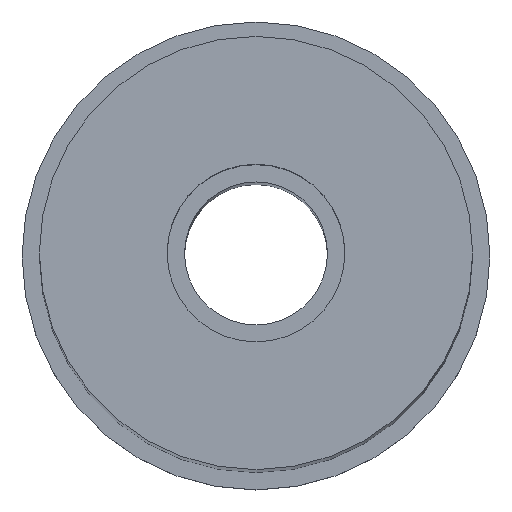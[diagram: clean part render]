
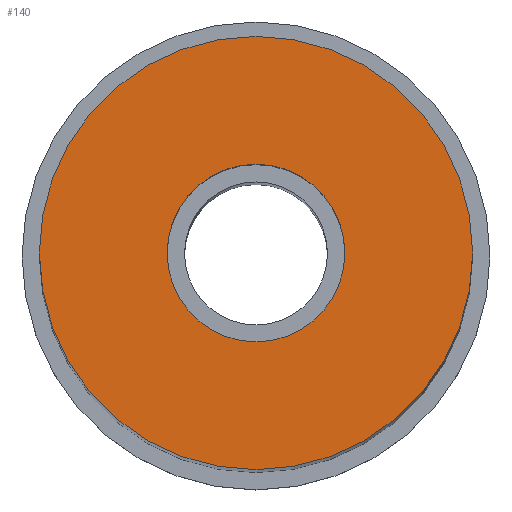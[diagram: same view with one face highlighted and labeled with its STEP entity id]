
A CAD part, top view. The second image highlights one B-rep face of the part: STEP entity #140.
In plain terms, the highlighted planar face has unit normal (0, 0, 1).
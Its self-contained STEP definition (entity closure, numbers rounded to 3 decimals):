
#24 = VERTEX_POINT('',#25);
#25 = CARTESIAN_POINT('',(5.,0.,40.));
#32 = CYLINDRICAL_SURFACE('',#33,5.);
#33 = AXIS2_PLACEMENT_3D('',#34,#35,#36);
#34 = CARTESIAN_POINT('',(0.,0.,0.));
#35 = DIRECTION('',(0.,0.,1.));
#36 = DIRECTION('',(1.,0.,-0.));
#51 = EDGE_CURVE('',#24,#24,#52,.T.);
#52 = SURFACE_CURVE('',#53,(#58,#65),.PCURVE_S1.);
#53 = CIRCLE('',#54,5.);
#54 = AXIS2_PLACEMENT_3D('',#55,#56,#57);
#55 = CARTESIAN_POINT('',(0.,0.,40.));
#56 = DIRECTION('',(0.,0.,1.));
#57 = DIRECTION('',(1.,0.,-0.));
#58 = PCURVE('',#32,#59);
#59 = DEFINITIONAL_REPRESENTATION('',(#60),#64);
#60 = LINE('',#61,#62);
#61 = CARTESIAN_POINT('',(0.,40.));
#62 = VECTOR('',#63,1.);
#63 = DIRECTION('',(1.,0.));
#64 = ( GEOMETRIC_REPRESENTATION_CONTEXT(2) 
PARAMETRIC_REPRESENTATION_CONTEXT() REPRESENTATION_CONTEXT('2D SPACE',''
  ) );
#65 = PCURVE('',#66,#71);
#66 = PLANE('',#67);
#67 = AXIS2_PLACEMENT_3D('',#68,#69,#70);
#68 = CARTESIAN_POINT('',(0.,0.,40.));
#69 = DIRECTION('',(0.,0.,1.));
#70 = DIRECTION('',(1.,0.,-0.));
#71 = DEFINITIONAL_REPRESENTATION('',(#72),#76);
#72 = CIRCLE('',#73,5.);
#73 = AXIS2_PLACEMENT_2D('',#74,#75);
#74 = CARTESIAN_POINT('',(0.,0.));
#75 = DIRECTION('',(1.,0.));
#76 = ( GEOMETRIC_REPRESENTATION_CONTEXT(2) 
PARAMETRIC_REPRESENTATION_CONTEXT() REPRESENTATION_CONTEXT('2D SPACE',''
  ) );
#140 = ADVANCED_FACE('',(#141,#144),#66,.T.);
#141 = FACE_BOUND('',#142,.T.);
#142 = EDGE_LOOP('',(#143));
#143 = ORIENTED_EDGE('',*,*,#51,.T.);
#144 = FACE_BOUND('',#145,.T.);
#145 = EDGE_LOOP('',(#146));
#146 = ORIENTED_EDGE('',*,*,#147,.F.);
#147 = EDGE_CURVE('',#148,#148,#150,.T.);
#148 = VERTEX_POINT('',#149);
#149 = CARTESIAN_POINT('',(2.05,0.,40.));
#150 = SURFACE_CURVE('',#151,(#156,#163),.PCURVE_S1.);
#151 = CIRCLE('',#152,2.05);
#152 = AXIS2_PLACEMENT_3D('',#153,#154,#155);
#153 = CARTESIAN_POINT('',(0.,0.,40.));
#154 = DIRECTION('',(0.,0.,1.));
#155 = DIRECTION('',(1.,0.,-0.));
#156 = PCURVE('',#66,#157);
#157 = DEFINITIONAL_REPRESENTATION('',(#158),#162);
#158 = CIRCLE('',#159,2.05);
#159 = AXIS2_PLACEMENT_2D('',#160,#161);
#160 = CARTESIAN_POINT('',(0.,0.));
#161 = DIRECTION('',(1.,0.));
#162 = ( GEOMETRIC_REPRESENTATION_CONTEXT(2) 
PARAMETRIC_REPRESENTATION_CONTEXT() REPRESENTATION_CONTEXT('2D SPACE',''
  ) );
#163 = PCURVE('',#164,#169);
#164 = CYLINDRICAL_SURFACE('',#165,2.05);
#165 = AXIS2_PLACEMENT_3D('',#166,#167,#168);
#166 = CARTESIAN_POINT('',(0.,0.,34.));
#167 = DIRECTION('',(0.,0.,1.));
#168 = DIRECTION('',(1.,0.,-0.));
#169 = DEFINITIONAL_REPRESENTATION('',(#170),#174);
#170 = LINE('',#171,#172);
#171 = CARTESIAN_POINT('',(0.,6.));
#172 = VECTOR('',#173,1.);
#173 = DIRECTION('',(1.,0.));
#174 = ( GEOMETRIC_REPRESENTATION_CONTEXT(2) 
PARAMETRIC_REPRESENTATION_CONTEXT() REPRESENTATION_CONTEXT('2D SPACE',''
  ) );
